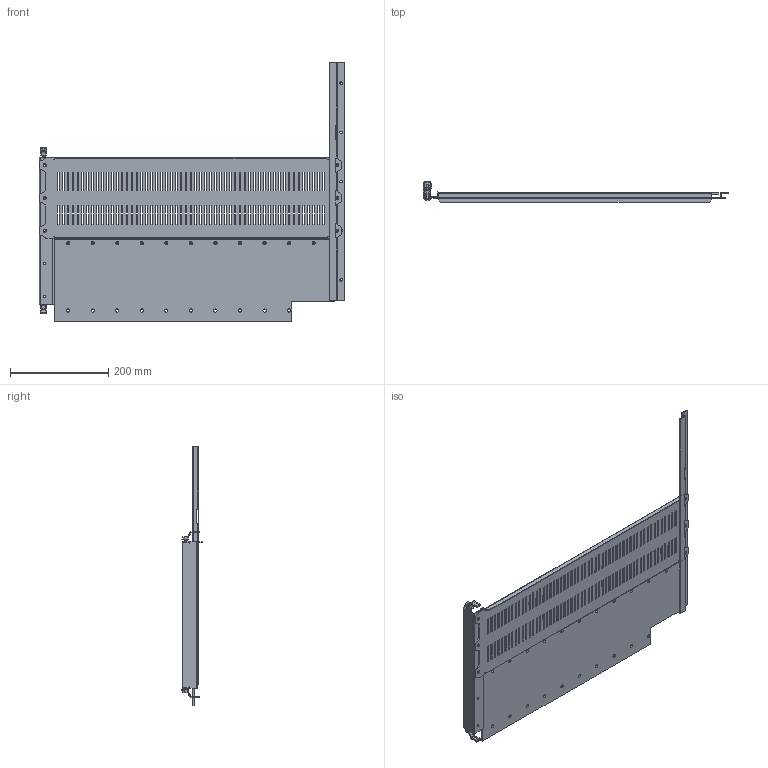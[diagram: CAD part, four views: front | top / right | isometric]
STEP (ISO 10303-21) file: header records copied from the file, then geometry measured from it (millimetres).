
FILE_DESCRIPTION(('CAx-IF Rec.Pracs.---Model Styling and Organization---1.2---2011-12-15','CAx-IF Rec.Pracs.---Geometric and Assembly Validation Properties---4.1---2014-06-16','CAx-IF Rec.Pracs.---PMI Polyline Presentation---2.0---2013-05-24'),'2;1');
FILE_NAME('R5SBBD646.stp','2021-05-06T02:26:36+03:00',(''),(''),'STEP Interface 4.4 by CT CoreTechnologie','3D_Evolution4.4 by CT CoreTechnologie','');
FILE_SCHEMA(('AUTOMOTIVE_DESIGN { 1 0 10303 214 1 1 1 1 }'));
Length unit declared in the file: millimetre
Products named in the file (7): R5SBBD646; RB.1344.00.00.0_-01; M6x16-DIN 7985 ISR_thread; AC00C485; RB.1346.00.00.0_-00; RB.1345.00.00.0_-01; RB.1347.00.00.0_-00
Assembly tree (8 placements, depth 2):
  R5SBBD646
    RB.1344.00.00.0_-01
    M6x16-DIN 7985 ISR_thread  x2
    AC00C485  x2
    RB.1346.00.00.0_-00
    RB.1345.00.00.0_-01
    RB.1347.00.00.0_-00
Bounding box: 622.5 x 42.45 x 527.59 mm (x, y, z)
Surface area: 500533.8 mm2 (no closed solid volume)
Topology: 0 solids, 10 shells, 905 faces, 2571 edges, 1672 vertices
Faces by surface type: plane 653, cylinder 224, bspline 28
Entity records: 27850 total; most frequent: CARTESIAN_POINT 5214, ORIENTED_EDGE 4690, DIRECTION 4314, EDGE_CURVE 2345, VECTOR 1966, LINE 1966, VERTEX_POINT 1538, AXIS2_PLACEMENT_3D 1174
